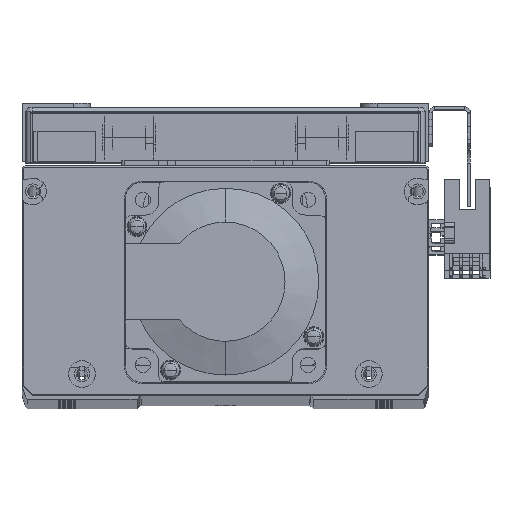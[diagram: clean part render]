
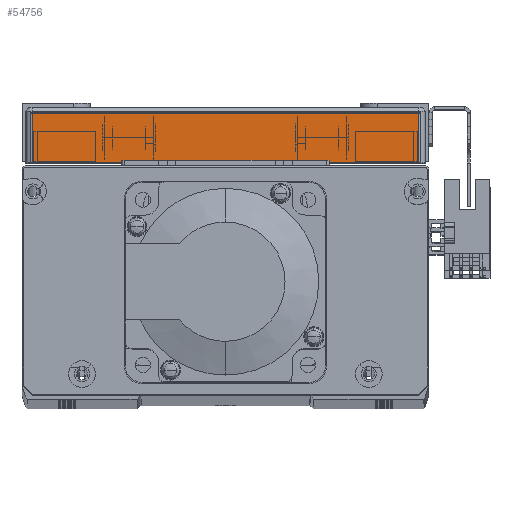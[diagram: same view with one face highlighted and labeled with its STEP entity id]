
A CAD part, top view. The second image highlights one B-rep face of the part: STEP entity #54756.
In plain terms, the highlighted planar face has unit normal (0, 0, 1) as drawn and (1, 0, 0) by its records, which use the part's own axes.
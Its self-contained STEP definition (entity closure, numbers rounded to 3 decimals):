
#8666 = EDGE_LOOP ( 'NONE', ( #26951, #26921, #26955, #26968 ) ) ;
#12490 = CARTESIAN_POINT ( 'NONE',  ( 85.5, 16.5, -60. ) ) ;
#12493 = DIRECTION ( 'NONE',  ( -1., 0., 0. ) ) ;
#12494 = DIRECTION ( 'NONE',  ( 0., 0., 1. ) ) ;
#12502 = PLANE ( 'NONE',  #23830 ) ;
#21250 = FACE_OUTER_BOUND ( 'NONE', #8666, .T. ) ;
#21794 = VECTOR ( 'NONE', #47450, 1000. ) ;
#21859 = LINE ( 'NONE', #47489, #21794 ) ;
#21916 = LINE ( 'NONE', #47492, #21973 ) ;
#21954 = LINE ( 'NONE', #47544, #22033 ) ;
#21973 = VECTOR ( 'NONE', #47522, 1000. ) ;
#22003 = LINE ( 'NONE', #47521, #22021 ) ;
#22021 = VECTOR ( 'NONE', #47508, 1000. ) ;
#22033 = VECTOR ( 'NONE', #47556, 1000. ) ;
#23830 = AXIS2_PLACEMENT_3D ( 'NONE', #12490, #12493, #12494 ) ;
#26921 = ORIENTED_EDGE ( 'NONE', *, *, #28339, .T. ) ;
#26951 = ORIENTED_EDGE ( 'NONE', *, *, #28371, .T. ) ;
#26955 = ORIENTED_EDGE ( 'NONE', *, *, #28338, .T. ) ;
#26968 = ORIENTED_EDGE ( 'NONE', *, *, #28333, .T. ) ;
#28333 = EDGE_CURVE ( 'NONE', #49355, #49276, #21859, .T. ) ;
#28338 = EDGE_CURVE ( 'NONE', #49305, #49355, #21916, .T. ) ;
#28339 = EDGE_CURVE ( 'NONE', #49315, #49305, #22003, .T. ) ;
#28371 = EDGE_CURVE ( 'NONE', #49276, #49315, #21954, .T. ) ;
#39967 = CARTESIAN_POINT ( 'NONE',  ( 85.5, 0., 58. ) ) ;
#39993 = CARTESIAN_POINT ( 'NONE',  ( 85.5, 15.5, -58. ) ) ;
#39997 = CARTESIAN_POINT ( 'NONE',  ( 85.5, 0., -58. ) ) ;
#40044 = CARTESIAN_POINT ( 'NONE',  ( 85.5, 15.5, 58. ) ) ;
#47450 = DIRECTION ( 'NONE',  ( 0., 0., -1. ) ) ;
#47489 = CARTESIAN_POINT ( 'NONE',  ( 85.5, 0., -60. ) ) ;
#47492 = CARTESIAN_POINT ( 'NONE',  ( 85.5, 16.5, 58. ) ) ;
#47508 = DIRECTION ( 'NONE',  ( 0., 0., 1. ) ) ;
#47521 = CARTESIAN_POINT ( 'NONE',  ( 85.5, 15.5, 58. ) ) ;
#47522 = DIRECTION ( 'NONE',  ( 0., -1., 0. ) ) ;
#47544 = CARTESIAN_POINT ( 'NONE',  ( 85.5, 16.5, -58. ) ) ;
#47556 = DIRECTION ( 'NONE',  ( 0., 1., 0. ) ) ;
#49276 = VERTEX_POINT ( 'NONE', #39997 ) ;
#49305 = VERTEX_POINT ( 'NONE', #40044 ) ;
#49315 = VERTEX_POINT ( 'NONE', #39993 ) ;
#49355 = VERTEX_POINT ( 'NONE', #39967 ) ;
#54756 = ADVANCED_FACE ( 'NONE', ( #21250 ), #12502, .F. ) ;
